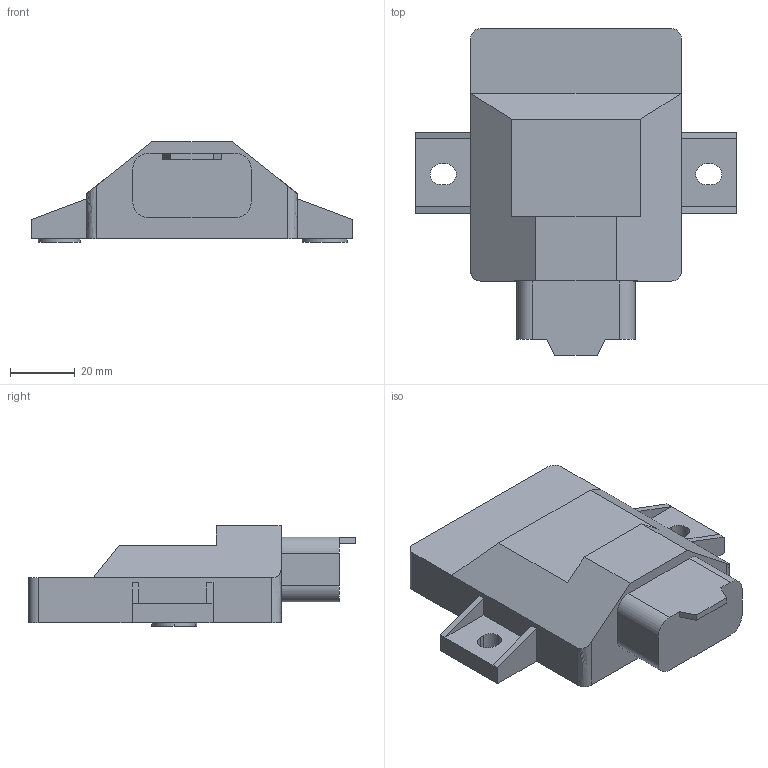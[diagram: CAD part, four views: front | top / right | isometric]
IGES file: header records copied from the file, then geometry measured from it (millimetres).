
Start section:  PTC IGES file: controller-outline.igs
Global section: file name: controller-outline.igs; native system: Pro/ENGINEER by Parametric Technology Corporation; preprocessor: 2010430; author: YY631790; organization: Unknown; date: 20121224.141529; units: millimetre
Bounding box: 99 x 101 x 31 mm (x, y, z)
Surface area: 20478.8 mm2 (no closed solid volume)
Topology: 0 solids, 0 shells, 59 faces, 312 edges, 312 vertices
Faces by surface type: bspline 43, revolution 16
